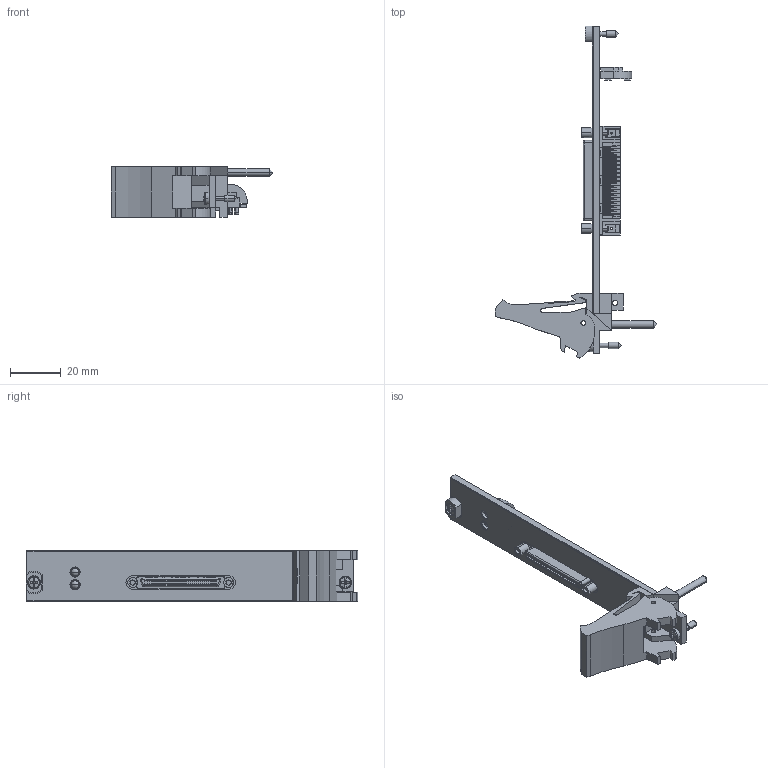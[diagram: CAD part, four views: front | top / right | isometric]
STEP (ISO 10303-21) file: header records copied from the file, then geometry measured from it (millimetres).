
FILE_DESCRIPTION((''),'2;1');
FILE_NAME('CU_PXIE-6535','2009-12-28T',('jjorden'),(''),'PRO/ENGINEER BY PARAMETRIC TECHNOLOGY CORPORATION, 2006080','PRO/ENGINEER BY PARAMETRIC TECHNOLOGY CORPORATION, 2006080','');
FILE_SCHEMA(('CONFIG_CONTROL_DESIGN'));
Length unit declared in the file: inch
Products named in the file (1): CU_PXIE-6535
Bounding box: 63.53 x 130.5 x 20.02 mm (x, y, z)
Volume: 15865.6 mm3; surface area: 14974.4 mm2
Topology: 4 solids, 4 shells, 1976 faces, 5358 edges, 3518 vertices
Faces by surface type: plane 1585, cylinder 353, cone 22, sphere 8, torus 4, bspline 4
Entity records: 62203 total; most frequent: CARTESIAN_POINT 11320, ORIENTED_EDGE 10700, DIRECTION 10056, EDGE_CURVE 5350, VECTOR 4526, LINE 4526, VERTEX_POINT 3518, AXIS2_PLACEMENT_3D 2765
